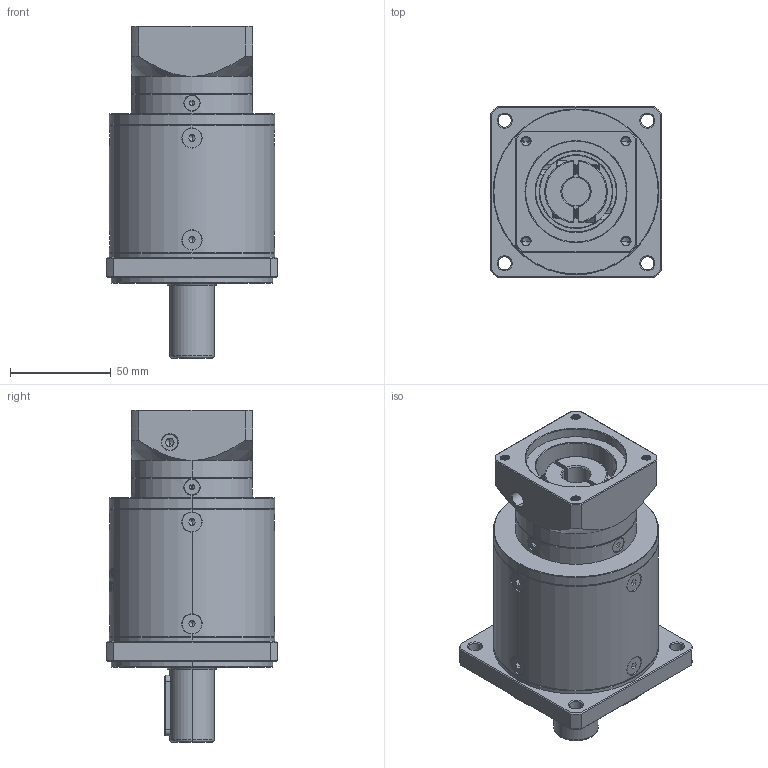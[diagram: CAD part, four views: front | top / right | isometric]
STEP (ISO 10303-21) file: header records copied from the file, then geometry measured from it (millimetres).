
FILE_DESCRIPTION (( 'STEP AP214' ), '1' );
FILE_NAME ('ZF080-D22-L3-P2-14-50-70-M5.step', '2023-08-19T06:57:24', ( '' ), ( '' ), 'SwSTEP 2.0', 'SolidWorks 2016', '' );
FILE_SCHEMA (( 'AUTOMOTIVE_DESIGN' ));
Length unit declared in the file: millimetre
Products named in the file (1): ZF080-D22-L3-P2-14-50-70-M5
Bounding box: 85 x 85 x 164.5 mm (x, y, z)
Volume: 574171.5 mm3; surface area: 73013.7 mm2
Topology: 18 solids, 18 shells, 2293 faces, 6042 edges, 3850 vertices
Faces by surface type: plane 1123, cylinder 407, bspline 394, cone 327, torus 42
Entity records: 122081 total; most frequent: CARTESIAN_POINT 45128, ORIENTED_EDGE 12008, DIRECTION 9027, EDGE_CURVE 6004, VERTEX_POINT 3850, LINE 3189, VECTOR 3189, AXIS2_PLACEMENT_3D 2919
